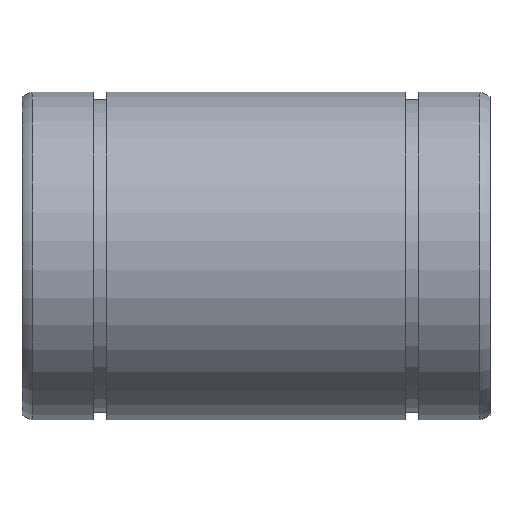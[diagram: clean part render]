
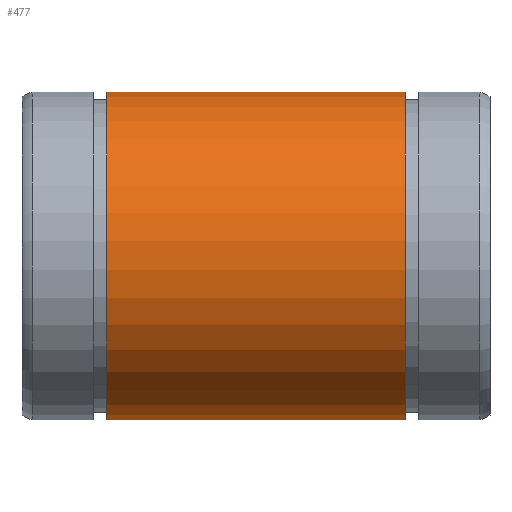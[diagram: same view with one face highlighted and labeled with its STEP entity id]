
A CAD part, top view. The second image highlights one B-rep face of the part: STEP entity #477.
In plain terms, the highlighted cylindrical face has radius 22.5 mm (diameter 45 mm), a partial arc.
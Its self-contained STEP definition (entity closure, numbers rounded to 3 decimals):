
#90=CARTESIAN_POINT('',(11.6,9.42,-20.433));
#91=VERTEX_POINT('',#90);
#98=CARTESIAN_POINT('',(52.4,9.42,-20.433));
#99=VERTEX_POINT('',#98);
#100=CARTESIAN_POINT('',(52.4,9.42,-20.433));
#101=DIRECTION('',(-1.0,0.0,0.0));
#102=VECTOR('',#101,40.8);
#103=LINE('',#100,#102);
#104=EDGE_CURVE('',#99,#91,#103,.T.);
#333=CARTESIAN_POINT('',(52.4,-9.42,-20.433));
#334=VERTEX_POINT('',#333);
#341=CARTESIAN_POINT('',(11.6,-9.42,-20.433));
#342=VERTEX_POINT('',#341);
#343=CARTESIAN_POINT('',(11.6,-9.42,-20.433));
#344=DIRECTION('',(1.0,0.0,0.0));
#345=VECTOR('',#344,40.8);
#346=LINE('',#343,#345);
#347=EDGE_CURVE('',#342,#334,#346,.T.);
#448=CARTESIAN_POINT('',(11.6,0.0,0.));
#449=DIRECTION('',(-1.0,0.0,0.0));
#450=DIRECTION('',(0.0,0.0,1.0));
#451=AXIS2_PLACEMENT_3D('',#448,#449,#450);
#452=CIRCLE('',#451,22.5);
#453=EDGE_CURVE('',#342,#91,#452,.T.);
#460=CARTESIAN_POINT('',(32.,0.0,0.));
#461=DIRECTION('',(-1.0,0.0,0.0));
#462=DIRECTION('',(0.0,0.0,1.0));
#463=AXIS2_PLACEMENT_3D('',#460,#461,#462);
#464=CYLINDRICAL_SURFACE('',#463,22.5);
#465=ORIENTED_EDGE('',*,*,#347,.T.);
#466=CARTESIAN_POINT('',(52.4,0.0,0.));
#467=DIRECTION('',(-1.0,0.0,0.0));
#468=DIRECTION('',(0.0,0.0,1.0));
#469=AXIS2_PLACEMENT_3D('',#466,#467,#468);
#470=CIRCLE('',#469,22.5);
#471=EDGE_CURVE('',#334,#99,#470,.T.);
#472=ORIENTED_EDGE('',*,*,#471,.T.);
#473=ORIENTED_EDGE('',*,*,#104,.T.);
#474=ORIENTED_EDGE('',*,*,#453,.F.);
#475=EDGE_LOOP('',(#465,#472,#473,#474));
#476=FACE_OUTER_BOUND('',#475,.T.);
#477=ADVANCED_FACE('',(#476),#464,.T.);
